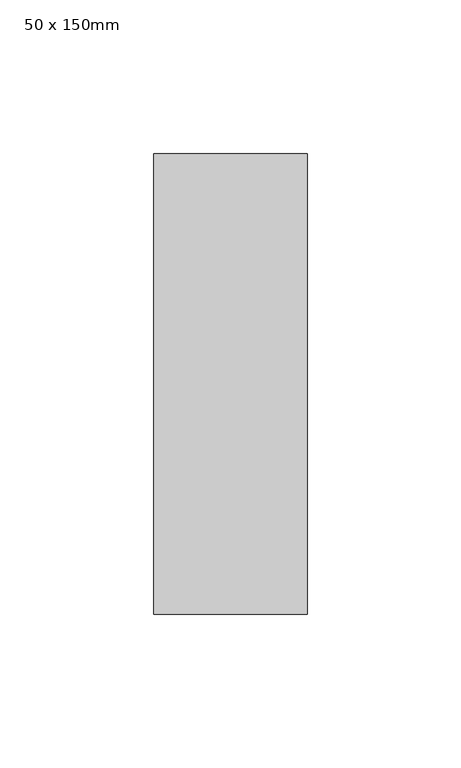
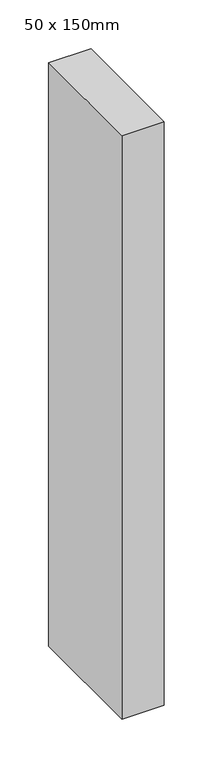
"""IFC4 building model written with IfcOpenShell, lengths in millimetres: member geometry, Прямоугольный импост : 50 x 150mm."""

from ifc_helpers import new_model, si_unit, frame, origin, place, context, project, spatial, polyline, outline, extrude, source, transform, mapped, element, save


def member_50_x_150mm_14b6127b(model_context):
    return source(origin(), model_context, "Body", "SweptSolid", [
        extrude(outline(polyline([(0.0, 75.0), (0.0, -75.0), (-50.0, -75.0), (-50.0, 75.0), (0.0, 75.0)])), frame((0.0, 0.0, -730.0), z_axis=(0.0, 0.0, 1.0), x_axis=(1.0, 0.0, 0.0)), (0.0, 0.0, 1.0), 730.0),
    ])


if __name__ == "__main__":
    model = new_model("IFC4")
    model_context = context("Model", 3, world=origin())
    ifc_project = project(units=[si_unit("LENGTHUNIT", "METRE", prefix="MILLI")], contexts=[model_context])
    site = spatial("IfcSite", under=ifc_project)
    building = spatial("IfcBuilding", under=site)
    placement = place(None, origin())
    member_50_x_150mm_shape = member_50_x_150mm_14b6127b(model_context)
    element("IfcMember", 1, ObjectType="Прямоугольный импост : 50 x 150mm", at=placement, inside=building, context=model_context, shape_type="MappedRepresentation", body=[
        mapped(member_50_x_150mm_shape, transform((0.0, 0.0, 0.0), x_axis=(1.0, 0.0, 0.0), y_axis=(0.0, 1.0, 0.0), z_axis=(0.0, 0.0, 1.0))),
    ])
    save(model, "model.ifc")
